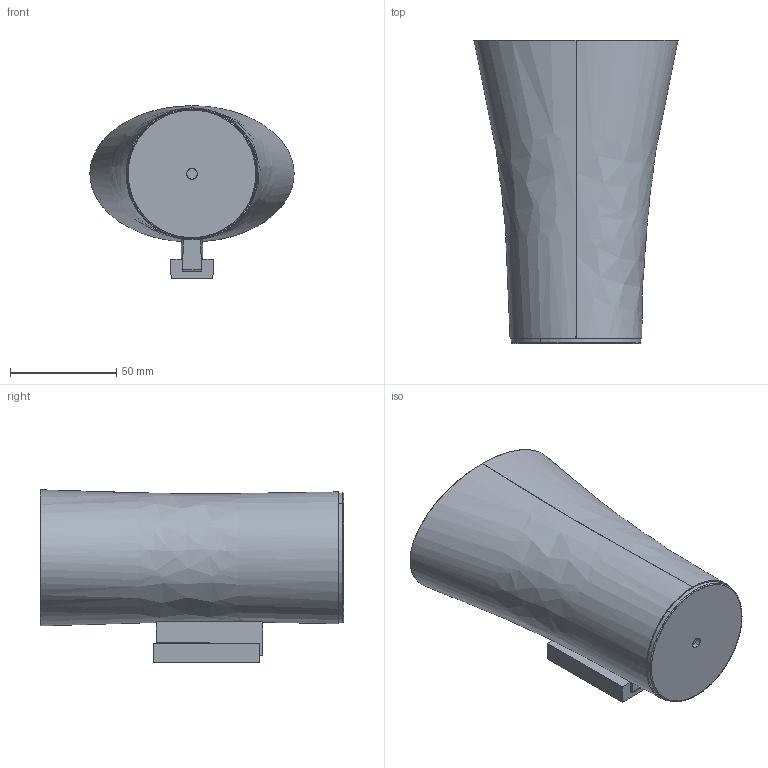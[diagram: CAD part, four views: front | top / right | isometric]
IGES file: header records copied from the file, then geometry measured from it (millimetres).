
Start section: SolidWorks IGES file using analytic representation for surfaces
Global section: file name: G:\Projects\New project\For Marketing\IGS\IGS\2015-12-25\767001318VW.IGS; native system: SolidWorks 2010; preprocessor: SolidWorks 2010; author: linda; date: 151218.135110; units: millimetre
Bounding box: 96 x 142.5 x 81.05 mm (x, y, z)
Surface area: 63835.7 mm2 (no closed solid volume)
Topology: 0 solids, 0 shells, 60 faces, 961 edges, 961 vertices
Faces by surface type: bspline 34, revolution 26
